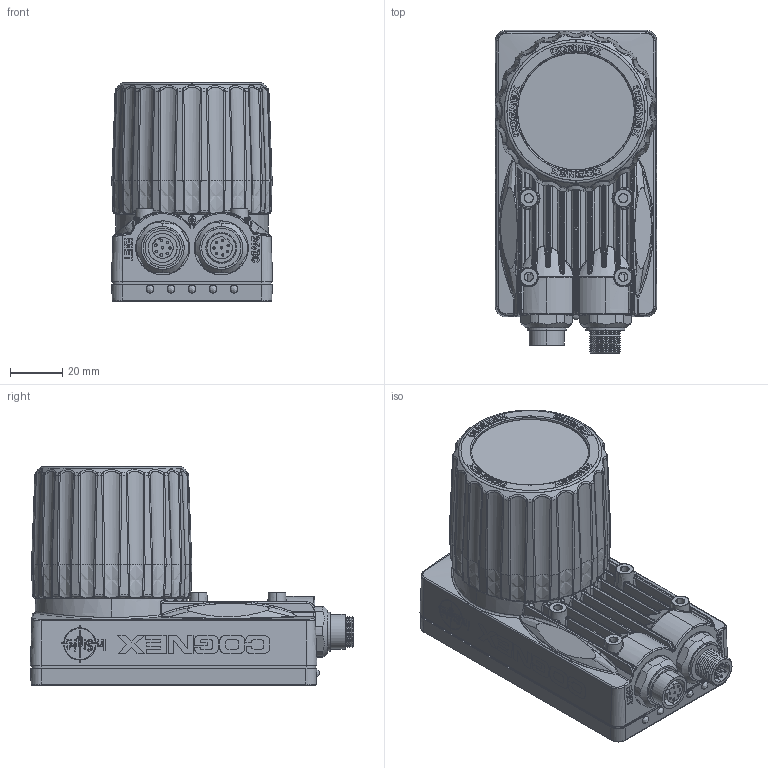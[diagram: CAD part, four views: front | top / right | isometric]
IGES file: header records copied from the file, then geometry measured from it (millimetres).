
Start section: SolidWorks IGES file using analytic representation for surfaces
Global section: file name: C:\Hardware Design\Marketing Graphics\IS001\IS001-03\IS001-03-9-13-06 50mm.IGS; native system: SolidWorks 2006 by SolidWorks Corporation; preprocessor: SolidWorks 2006 by SolidWorks Corporation; author: rgainer; date: 060913.132454; units: millimetre
Bounding box: 61.44 x 123.25 x 83.41 mm (x, y, z)
Surface area: 58890.8 mm2 (no closed solid volume)
Topology: 0 solids, 0 shells, 5936 faces, 43019 edges, 42983 vertices
Faces by surface type: bspline 5242, revolution 694
